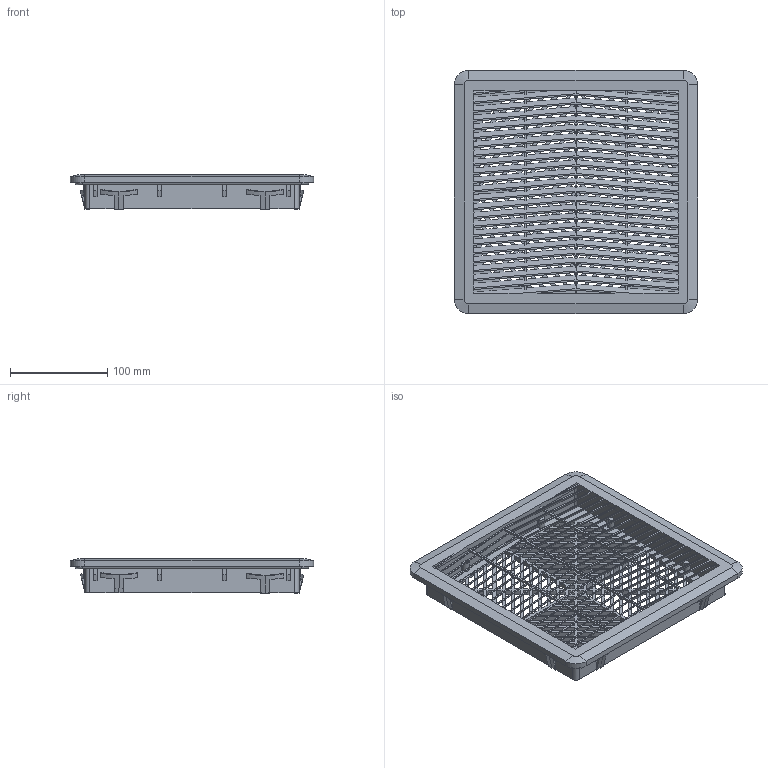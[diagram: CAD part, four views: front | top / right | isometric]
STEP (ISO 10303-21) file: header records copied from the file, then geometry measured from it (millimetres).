
FILE_DESCRIPTION (( 'STEP AP214' ), '1' );
FILE_NAME ('FF 15 Ðåøåòêà ñ ôèëüòðîì.STEP', '2018-08-23T11:04:07', ( '' ), ( '' ), 'SwSTEP 2.0', 'SolidWorks 2012', '' );
FILE_SCHEMA (( 'AUTOMOTIVE_DESIGN' ));
Length unit declared in the file: millimetre
Products named in the file (3): Çàùåëêà; Ðåøåòêà FF 15 áåç çàùåëîê; FF 15 Ðåøåòêà ñ ôèëüòðîì
Assembly tree (9 placements, depth 2):
  FF 15 Ðåøåòêà ñ ôèëüòðîì
    Ðåøåòêà FF 15 áåç çàùåëîê
    Çàùåëêà  x8
Bounding box: 250 x 250 x 35.94 mm (x, y, z)
Volume: 378445.6 mm3; surface area: 290526.3 mm2
Topology: 9 solids, 9 shells, 1183 faces, 3554 edges, 2332 vertices
Faces by surface type: plane 1080, cylinder 95, cone 4, torus 4
Entity records: 36696 total; most frequent: CARTESIAN_POINT 6492, ORIENTED_EDGE 6478, DIRECTION 5508, EDGE_CURVE 3239, LINE 3086, VECTOR 3086, VERTEX_POINT 2129, EDGE_LOOP 1390
